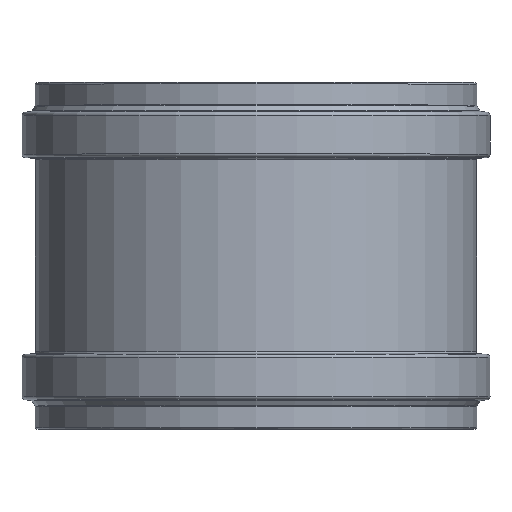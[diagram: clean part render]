
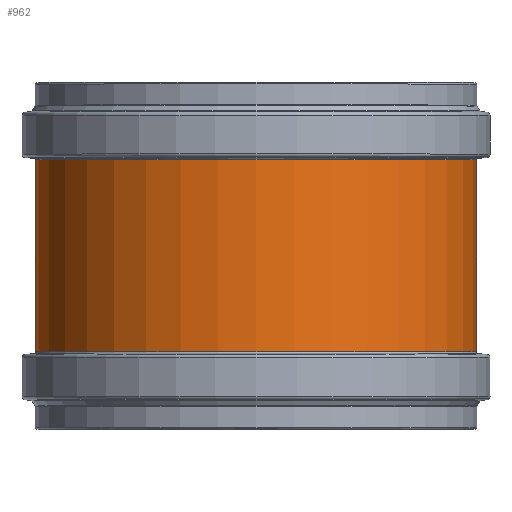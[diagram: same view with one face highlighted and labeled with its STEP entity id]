
A CAD part, top view. The second image highlights one B-rep face of the part: STEP entity #962.
In plain terms, the highlighted cylindrical face has radius 266.5 mm (diameter 533 mm), a full revolution.
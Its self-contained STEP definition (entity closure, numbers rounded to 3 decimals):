
#31=CYLINDRICAL_SURFACE('',#1130,266.5);
#99=FACE_OUTER_BOUND('',#157,.T.);
#157=EDGE_LOOP('',(#819,#820,#821,#822,#823,#824));
#193=LINE('',#1798,#219);
#219=VECTOR('',#1465,266.5);
#314=CIRCLE('',#1128,266.5);
#315=CIRCLE('',#1129,266.5);
#316=CIRCLE('',#1131,266.5);
#317=CIRCLE('',#1132,266.5);
#423=VERTEX_POINT('',#1789);
#424=VERTEX_POINT('',#1791);
#425=VERTEX_POINT('',#1795);
#426=VERTEX_POINT('',#1796);
#560=EDGE_CURVE('',#424,#423,#314,.T.);
#561=EDGE_CURVE('',#423,#424,#315,.T.);
#562=EDGE_CURVE('',#425,#426,#316,.T.);
#563=EDGE_CURVE('',#425,#424,#193,.T.);
#564=EDGE_CURVE('',#426,#425,#317,.T.);
#819=ORIENTED_EDGE('',*,*,#562,.F.);
#820=ORIENTED_EDGE('',*,*,#563,.T.);
#821=ORIENTED_EDGE('',*,*,#560,.T.);
#822=ORIENTED_EDGE('',*,*,#561,.T.);
#823=ORIENTED_EDGE('',*,*,#563,.F.);
#824=ORIENTED_EDGE('',*,*,#564,.F.);
#962=ADVANCED_FACE('',(#99),#31,.T.);
#1128=AXIS2_PLACEMENT_3D('',#1792,#1457,#1458);
#1129=AXIS2_PLACEMENT_3D('',#1793,#1459,#1460);
#1130=AXIS2_PLACEMENT_3D('',#1794,#1461,#1462);
#1131=AXIS2_PLACEMENT_3D('',#1797,#1463,#1464);
#1132=AXIS2_PLACEMENT_3D('',#1799,#1466,#1467);
#1457=DIRECTION('center_axis',(0.,-1.,0.));
#1458=DIRECTION('ref_axis',(1.,0.,0.));
#1459=DIRECTION('center_axis',(0.,-1.,0.));
#1460=DIRECTION('ref_axis',(1.,0.,0.));
#1461=DIRECTION('center_axis',(0.,-1.,0.));
#1462=DIRECTION('ref_axis',(1.,0.,0.));
#1463=DIRECTION('center_axis',(0.,-1.,0.));
#1464=DIRECTION('ref_axis',(1.,0.,0.));
#1465=DIRECTION('',(0.,1.,0.));
#1466=DIRECTION('center_axis',(0.,-1.,0.));
#1467=DIRECTION('ref_axis',(1.,0.,0.));
#1789=CARTESIAN_POINT('',(0.,324.251,266.5));
#1791=CARTESIAN_POINT('',(-266.5,324.251,0.));
#1792=CARTESIAN_POINT('Origin',(0.,324.251,0.));
#1793=CARTESIAN_POINT('Origin',(0.,324.251,0.));
#1794=CARTESIAN_POINT('Origin',(0.,208.25,0.));
#1795=CARTESIAN_POINT('',(-266.5,92.249,0.));
#1796=CARTESIAN_POINT('',(0.,92.249,266.5));
#1797=CARTESIAN_POINT('Origin',(0.,92.249,0.));
#1798=CARTESIAN_POINT('',(-266.5,208.25,0.));
#1799=CARTESIAN_POINT('Origin',(0.,92.249,0.));
